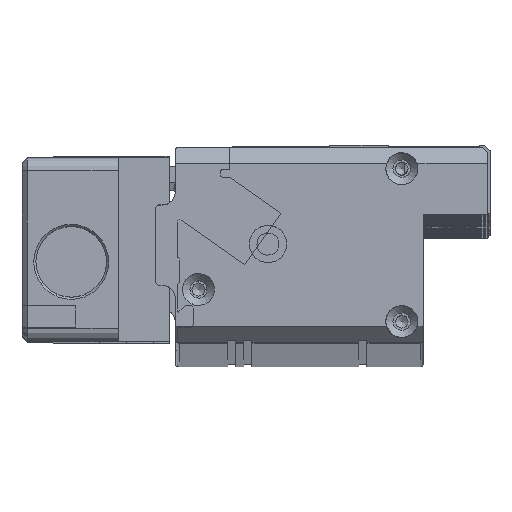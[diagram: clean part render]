
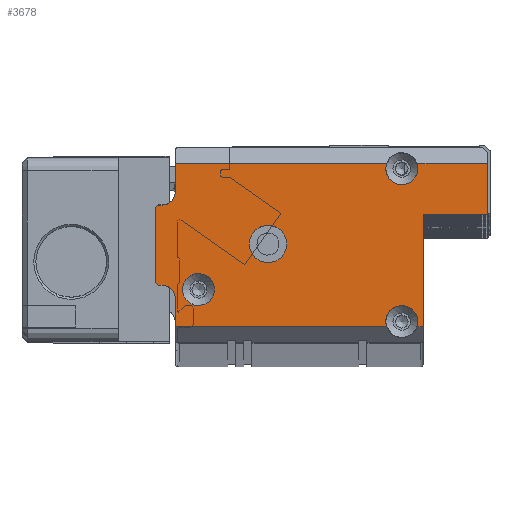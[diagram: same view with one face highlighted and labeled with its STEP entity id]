
A CAD part, top view. The second image highlights one B-rep face of the part: STEP entity #3678.
In plain terms, the highlighted planar face has unit normal (0, 0, 1).
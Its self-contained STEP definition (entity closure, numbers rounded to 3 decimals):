
#1149=FACE_BOUND('',#7347,.T.);
#1150=FACE_BOUND('',#7348,.T.);
#1151=FACE_BOUND('',#7349,.T.);
#2196=CIRCLE('',#29899,3.);
#2197=CIRCLE('',#29900,3.);
#2198=CIRCLE('',#29901,0.5);
#2199=CIRCLE('',#29902,0.5);
#2200=CIRCLE('',#29903,3.);
#2201=CIRCLE('',#29904,2.5);
#2202=CIRCLE('',#29905,0.5);
#2203=CIRCLE('',#29906,0.5);
#2204=CIRCLE('',#29907,2.5);
#2205=CIRCLE('',#29908,3.5);
#3678=ADVANCED_FACE('',(#1149,#1150,#1151),#4584,.T.);
#4584=PLANE('',#29909);
#7347=EDGE_LOOP('',(#20201));
#7348=EDGE_LOOP('',(#20202,#20203,#20204,#20205,#20206,#20207,#20208,#20209,
#20210,#20211,#20212,#20213,#20214,#20215,#20216,#20217,#20218,#20219,#20220,
#20221));
#7349=EDGE_LOOP('',(#20222));
#9903=LINE('',#47151,#12501);
#9904=LINE('',#47153,#12502);
#9905=LINE('',#47157,#12503);
#9906=LINE('',#47161,#12504);
#9907=LINE('',#47163,#12505);
#9908=LINE('',#47167,#12506);
#9909=LINE('',#47169,#12507);
#9910=LINE('',#47173,#12508);
#9911=LINE('',#47177,#12509);
#9912=LINE('',#47181,#12510);
#9913=LINE('',#47185,#12511);
#9914=LINE('',#47187,#12512);
#12501=VECTOR('',#37457,1.);
#12502=VECTOR('',#37458,1.);
#12503=VECTOR('',#37461,1.);
#12504=VECTOR('',#37464,1.);
#12505=VECTOR('',#37465,1.);
#12506=VECTOR('',#37468,1.);
#12507=VECTOR('',#37469,1.);
#12508=VECTOR('',#37472,1.);
#12509=VECTOR('',#37475,1.);
#12510=VECTOR('',#37478,1.);
#12511=VECTOR('',#37481,1.);
#12512=VECTOR('',#37482,1.);
#20201=ORIENTED_EDGE('',*,*,#27168,.T.);
#20202=ORIENTED_EDGE('',*,*,#27169,.T.);
#20203=ORIENTED_EDGE('',*,*,#27170,.T.);
#20204=ORIENTED_EDGE('',*,*,#27171,.T.);
#20205=ORIENTED_EDGE('',*,*,#27172,.T.);
#20206=ORIENTED_EDGE('',*,*,#27173,.T.);
#20207=ORIENTED_EDGE('',*,*,#27174,.T.);
#20208=ORIENTED_EDGE('',*,*,#27175,.T.);
#20209=ORIENTED_EDGE('',*,*,#27176,.T.);
#20210=ORIENTED_EDGE('',*,*,#27177,.T.);
#20211=ORIENTED_EDGE('',*,*,#27178,.T.);
#20212=ORIENTED_EDGE('',*,*,#27179,.T.);
#20213=ORIENTED_EDGE('',*,*,#27180,.T.);
#20214=ORIENTED_EDGE('',*,*,#27181,.T.);
#20215=ORIENTED_EDGE('',*,*,#27182,.T.);
#20216=ORIENTED_EDGE('',*,*,#27183,.T.);
#20217=ORIENTED_EDGE('',*,*,#27184,.T.);
#20218=ORIENTED_EDGE('',*,*,#27185,.T.);
#20219=ORIENTED_EDGE('',*,*,#27186,.T.);
#20220=ORIENTED_EDGE('',*,*,#27187,.T.);
#20221=ORIENTED_EDGE('',*,*,#27188,.T.);
#20222=ORIENTED_EDGE('',*,*,#27189,.T.);
#23232=VERTEX_POINT('',#47147);
#23233=VERTEX_POINT('',#47149);
#23234=VERTEX_POINT('',#47150);
#23235=VERTEX_POINT('',#47152);
#23236=VERTEX_POINT('',#47154);
#23237=VERTEX_POINT('',#47156);
#23238=VERTEX_POINT('',#47158);
#23239=VERTEX_POINT('',#47160);
#23240=VERTEX_POINT('',#47162);
#23241=VERTEX_POINT('',#47164);
#23242=VERTEX_POINT('',#47166);
#23243=VERTEX_POINT('',#47168);
#23244=VERTEX_POINT('',#47170);
#23245=VERTEX_POINT('',#47172);
#23246=VERTEX_POINT('',#47174);
#23247=VERTEX_POINT('',#47176);
#23248=VERTEX_POINT('',#47178);
#23249=VERTEX_POINT('',#47180);
#23250=VERTEX_POINT('',#47182);
#23251=VERTEX_POINT('',#47184);
#23252=VERTEX_POINT('',#47186);
#23253=VERTEX_POINT('',#47189);
#27168=EDGE_CURVE('',#23232,#23232,#2196,.T.);
#27169=EDGE_CURVE('',#23233,#23234,#2197,.T.);
#27170=EDGE_CURVE('',#23234,#23235,#9903,.T.);
#27171=EDGE_CURVE('',#23235,#23236,#9904,.T.);
#27172=EDGE_CURVE('',#23236,#23237,#2198,.T.);
#27173=EDGE_CURVE('',#23237,#23238,#9905,.T.);
#27174=EDGE_CURVE('',#23238,#23239,#2199,.T.);
#27175=EDGE_CURVE('',#23239,#23240,#9906,.T.);
#27176=EDGE_CURVE('',#23240,#23241,#9907,.T.);
#27177=EDGE_CURVE('',#23241,#23242,#2200,.T.);
#27178=EDGE_CURVE('',#23242,#23243,#9908,.T.);
#27179=EDGE_CURVE('',#23243,#23244,#9909,.T.);
#27180=EDGE_CURVE('',#23244,#23245,#2201,.T.);
#27181=EDGE_CURVE('',#23245,#23246,#9910,.T.);
#27182=EDGE_CURVE('',#23246,#23247,#2202,.T.);
#27183=EDGE_CURVE('',#23247,#23248,#9911,.T.);
#27184=EDGE_CURVE('',#23248,#23249,#2203,.T.);
#27185=EDGE_CURVE('',#23249,#23250,#9912,.T.);
#27186=EDGE_CURVE('',#23250,#23251,#2204,.T.);
#27187=EDGE_CURVE('',#23251,#23252,#9913,.T.);
#27188=EDGE_CURVE('',#23252,#23233,#9914,.T.);
#27189=EDGE_CURVE('',#23253,#23253,#2205,.T.);
#29899=AXIS2_PLACEMENT_3D('',#47146,#37453,#37454);
#29900=AXIS2_PLACEMENT_3D('',#47148,#37455,#37456);
#29901=AXIS2_PLACEMENT_3D('',#47155,#37459,#37460);
#29902=AXIS2_PLACEMENT_3D('',#47159,#37462,#37463);
#29903=AXIS2_PLACEMENT_3D('',#47165,#37466,#37467);
#29904=AXIS2_PLACEMENT_3D('',#47171,#37470,#37471);
#29905=AXIS2_PLACEMENT_3D('',#47175,#37473,#37474);
#29906=AXIS2_PLACEMENT_3D('',#47179,#37476,#37477);
#29907=AXIS2_PLACEMENT_3D('',#47183,#37479,#37480);
#29908=AXIS2_PLACEMENT_3D('',#47188,#37483,#37484);
#29909=AXIS2_PLACEMENT_3D('',#47190,#37485,#37486);
#37453=DIRECTION('',(0.,0.,-1.));
#37454=DIRECTION('',(-1.,0.,0.));
#37455=DIRECTION('',(0.,0.,-1.));
#37456=DIRECTION('',(-1.,0.,0.));
#37457=DIRECTION('',(1.,0.,0.));
#37458=DIRECTION('',(0.,1.,0.));
#37459=DIRECTION('',(0.,0.,-1.));
#37460=DIRECTION('',(1.,0.,0.));
#37461=DIRECTION('',(1.,0.,0.));
#37462=DIRECTION('',(0.,0.,1.));
#37463=DIRECTION('',(1.,0.,0.));
#37464=DIRECTION('',(0.,1.,0.));
#37465=DIRECTION('',(-1.,0.,0.));
#37466=DIRECTION('',(0.,0.,-1.));
#37467=DIRECTION('',(-1.,0.,0.));
#37468=DIRECTION('',(-1.,0.,0.));
#37469=DIRECTION('',(0.,-1.,0.));
#37470=DIRECTION('',(0.,0.,-1.));
#37471=DIRECTION('',(1.,0.,0.));
#37472=DIRECTION('',(-1.,0.,0.));
#37473=DIRECTION('',(0.,0.,1.));
#37474=DIRECTION('',(1.,0.,0.));
#37475=DIRECTION('',(0.,-1.,0.));
#37476=DIRECTION('',(0.,0.,1.));
#37477=DIRECTION('',(1.,0.,0.));
#37478=DIRECTION('',(1.,0.,0.));
#37479=DIRECTION('',(0.,0.,-1.));
#37480=DIRECTION('',(1.,0.,0.));
#37481=DIRECTION('',(0.,-1.,0.));
#37482=DIRECTION('',(1.,0.,0.));
#37483=DIRECTION('',(0.,0.,-1.));
#37484=DIRECTION('',(-1.,0.,0.));
#37485=DIRECTION('',(0.,0.,1.));
#37486=DIRECTION('',(-1.,0.,0.));
#47146=CARTESIAN_POINT('',(8.,-26.6,8.));
#47147=CARTESIAN_POINT('',(5.,-26.6,8.));
#47148=CARTESIAN_POINT('',(46.,-32.6,8.));
#47149=CARTESIAN_POINT('',(43.172,-33.6,8.));
#47150=CARTESIAN_POINT('',(48.828,-33.6,8.));
#47151=CARTESIAN_POINT('',(50.,-33.6,8.));
#47152=CARTESIAN_POINT('',(50.,-33.6,8.));
#47153=CARTESIAN_POINT('',(50.,-36.6,8.));
#47154=CARTESIAN_POINT('',(50.,-13.1,8.));
#47155=CARTESIAN_POINT('',(50.5,-13.1,8.));
#47156=CARTESIAN_POINT('',(50.5,-12.6,8.));
#47157=CARTESIAN_POINT('',(50.,-12.6,8.));
#47158=CARTESIAN_POINT('',(61.6,-12.6,8.));
#47159=CARTESIAN_POINT('',(61.6,-12.1,8.));
#47160=CARTESIAN_POINT('',(62.1,-12.1,8.));
#47161=CARTESIAN_POINT('',(62.1,-12.6,8.));
#47162=CARTESIAN_POINT('',(62.1,-3.,8.));
#47163=CARTESIAN_POINT('',(3.7,-3.,8.));
#47164=CARTESIAN_POINT('',(48.828,-3.,8.));
#47165=CARTESIAN_POINT('',(46.,-4.,8.));
#47166=CARTESIAN_POINT('',(43.172,-3.,8.));
#47167=CARTESIAN_POINT('',(3.7,-3.,8.));
#47168=CARTESIAN_POINT('',(3.7,-3.,8.));
#47169=CARTESIAN_POINT('',(3.7,0.,8.));
#47170=CARTESIAN_POINT('',(3.7,-8.3,8.));
#47171=CARTESIAN_POINT('',(1.2,-8.3,8.));
#47172=CARTESIAN_POINT('',(1.2,-10.8,8.));
#47173=CARTESIAN_POINT('',(3.7,-10.8,8.));
#47174=CARTESIAN_POINT('',(0.5,-10.8,8.));
#47175=CARTESIAN_POINT('',(0.5,-11.3,8.));
#47176=CARTESIAN_POINT('',(0.,-11.3,8.));
#47177=CARTESIAN_POINT('',(0.,-10.8,8.));
#47178=CARTESIAN_POINT('',(0.,-25.3,8.));
#47179=CARTESIAN_POINT('',(0.5,-25.3,8.));
#47180=CARTESIAN_POINT('',(0.5,-25.8,8.));
#47181=CARTESIAN_POINT('',(0.,-25.8,8.));
#47182=CARTESIAN_POINT('',(1.2,-25.8,8.));
#47183=CARTESIAN_POINT('',(1.2,-28.3,8.));
#47184=CARTESIAN_POINT('',(3.7,-28.3,8.));
#47185=CARTESIAN_POINT('',(3.7,-25.8,8.));
#47186=CARTESIAN_POINT('',(3.7,-33.6,8.));
#47187=CARTESIAN_POINT('',(50.,-33.6,8.));
#47188=CARTESIAN_POINT('',(21.,-18.1,8.));
#47189=CARTESIAN_POINT('',(17.5,-18.1,8.));
#47190=CARTESIAN_POINT('',(0.,0.,8.));
